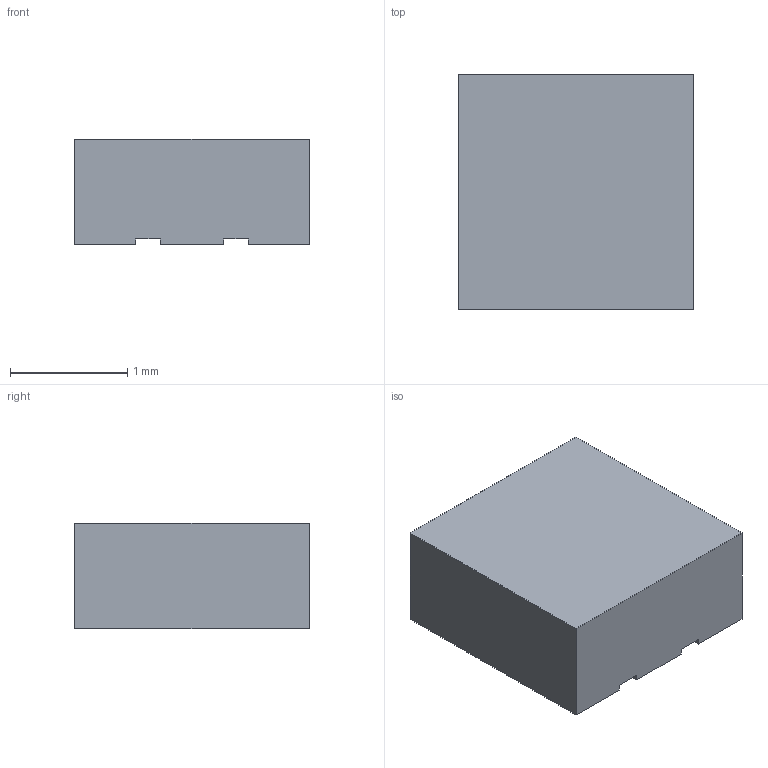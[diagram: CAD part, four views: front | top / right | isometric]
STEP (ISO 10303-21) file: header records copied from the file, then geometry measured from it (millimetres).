
FILE_DESCRIPTION(('STEP AP203'), '1');
FILE_NAME('栖闉罻', '', ('UNSPECIFIED'), ('UNSPECIFIED'), 'ASCON STEP Converter 1.6', 'ASCON Math Kernel', '');
FILE_SCHEMA(('CONFIG_CONTROL_DESIGN'));
Length unit declared in the file: millimetre
Assembly tree (1 placements, depth 2):
  (unnamed)
    (unnamed)
Bounding box: 2 x 2 x 0.9 mm (x, y, z)
Volume: 3.5 mm3; surface area: 16.3 mm2
Topology: 1 solids, 2 shells, 37 faces, 99 edges, 66 vertices
Faces by surface type: plane 33, cylinder 4
Entity records: 1533 total; most frequent: CARTESIAN_POINT 204, ORIENTED_EDGE 198, DIRECTION 185, EDGE_CURVE 99, LINE 91, VECTOR 91, VERTEX_POINT 66, AXIS2_PLACEMENT_3D 47
